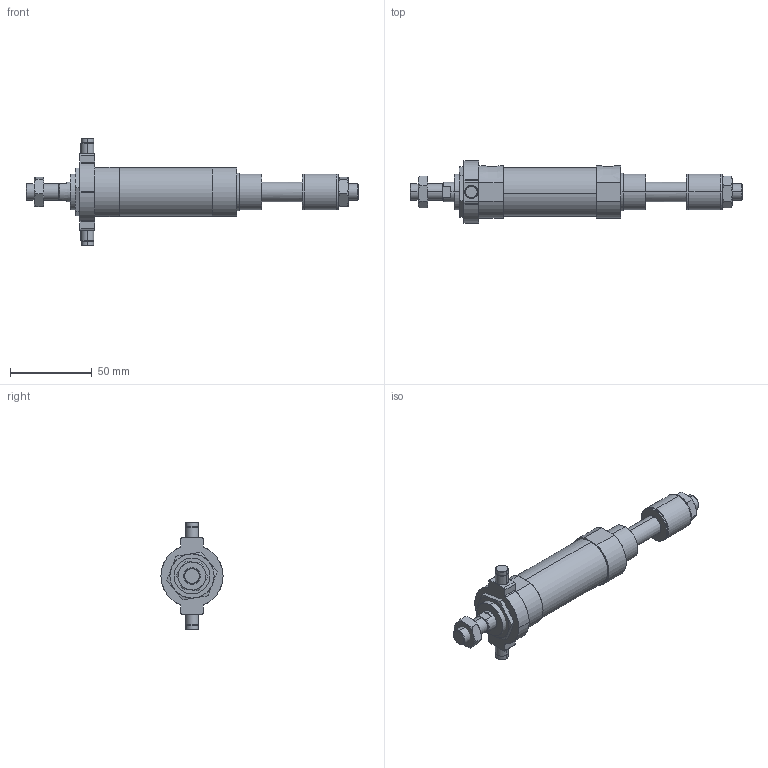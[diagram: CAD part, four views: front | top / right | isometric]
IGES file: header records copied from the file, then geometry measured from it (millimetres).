
Start section: SolidWorks IGES file using analytic representation for surfaces
Global section: file name: C:\Users\Toshiba\Desktop\JGA7-25-25-T.IGS; native system: SolidWorks 2014; preprocessor: SolidWorks 2014; author: Toshiba; date: 160420.095629; units: millimetre
Bounding box: 203 x 38 x 66 mm (x, y, z)
Surface area: 28867.1 mm2 (no closed solid volume)
Topology: 0 solids, 0 shells, 188 faces, 3188 edges, 3184 vertices
Faces by surface type: bspline 105, revolution 83
